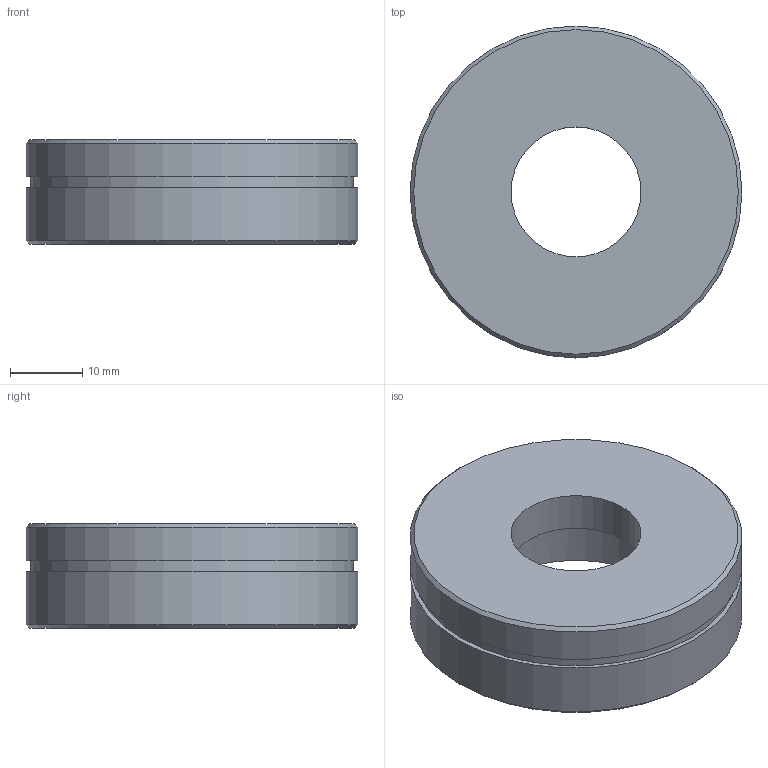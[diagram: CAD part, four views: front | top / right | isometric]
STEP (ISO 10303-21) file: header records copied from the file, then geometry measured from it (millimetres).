
FILE_DESCRIPTION(('Open CASCADE Model'),'2;1');
FILE_NAME('Open CASCADE Shape Model','2026-09-23T04:43:30',('Author'),( 'Open CASCADE'),'Open CASCADE STEP processor 7.9','Open CASCADE 7.9' ,'Unknown');
FILE_SCHEMA(('AUTOMOTIVE_DESIGN { 1 0 10303 214 1 1 1 1 }'));
Length unit declared in the file: millimetre
Products named in the file (1): Open CASCADE STEP translator 7.9 8
Bounding box: 46 x 46 x 14.5 mm (x, y, z)
Volume: 16982.3 mm3; surface area: 6123.4 mm2
Topology: 1 solids, 1 shells, 14 faces, 28 edges, 18 vertices
Faces by surface type: plane 6, cylinder 6, cone 2
Full cylindrical faces by diameter (mm): 1.2 x1, 18 x1, 28 x1, 44.8 x1, 46 x2
Entity records: 895 total; most frequent: CARTESIAN_POINT 298, DIRECTION 109, ORIENTED_EDGE 56, PCURVE 56, DEFINITIONAL_REPRESENTATION 56, LINE 39, VECTOR 39, AXIS2_PLACEMENT_3D 29
